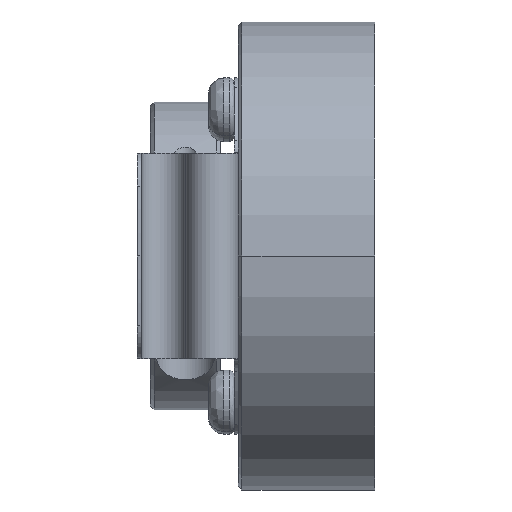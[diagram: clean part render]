
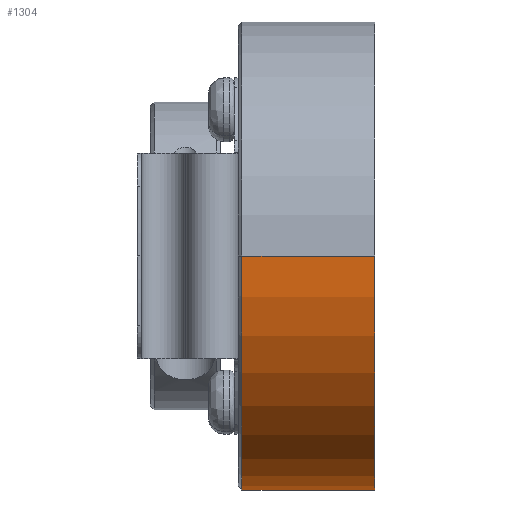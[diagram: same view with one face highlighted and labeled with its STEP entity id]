
A CAD part, front view. The second image highlights one B-rep face of the part: STEP entity #1304.
In plain terms, the highlighted cylindrical face has radius 18.25 mm (diameter 36.5 mm), a partial arc.
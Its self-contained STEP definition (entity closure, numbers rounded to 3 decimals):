
#867 = DIRECTION ( 'NONE',  ( 0., 1., 0. ) ) ;
#1304 = ADVANCED_FACE ( 'NONE', ( #10850 ), #15355, .T. ) ;
#2511 = CARTESIAN_POINT ( 'NONE',  ( -1.3, -18.25, 0. ) ) ;
#2563 = ORIENTED_EDGE ( 'NONE', *, *, #18942, .T. ) ;
#3885 = CARTESIAN_POINT ( 'NONE',  ( -11.65, -18.25, 0. ) ) ;
#4248 = ORIENTED_EDGE ( 'NONE', *, *, #6705, .F. ) ;
#4280 = AXIS2_PLACEMENT_3D ( 'NONE', #12043, #18749, #867 ) ;
#4600 = EDGE_CURVE ( 'NONE', #19644, #19797, #17626, .T. ) ;
#6275 = CARTESIAN_POINT ( 'NONE',  ( -1000., 0., 0. ) ) ;
#6684 = VERTEX_POINT ( 'NONE', #17681 ) ;
#6705 = EDGE_CURVE ( 'NONE', #6684, #19797, #20355, .T. ) ;
#7874 = CARTESIAN_POINT ( 'NONE',  ( -11.65, 18.25, 0. ) ) ;
#8023 = AXIS2_PLACEMENT_3D ( 'NONE', #18841, #9197, #17314 ) ;
#9170 = EDGE_LOOP ( 'NONE', ( #2563, #20824, #18116, #4248 ) ) ;
#9197 = DIRECTION ( 'NONE',  ( -1., 0., 0. ) ) ;
#9950 = VECTOR ( 'NONE', #20869, 1000. ) ;
#10850 = FACE_OUTER_BOUND ( 'NONE', #9170, .T. ) ;
#11793 = VERTEX_POINT ( 'NONE', #2511 ) ;
#12043 = CARTESIAN_POINT ( 'NONE',  ( -11.65, 0., 0. ) ) ;
#13884 = EDGE_CURVE ( 'NONE', #11793, #19644, #14185, .T. ) ;
#14185 = LINE ( 'NONE', #19569, #9950 ) ;
#14232 = CARTESIAN_POINT ( 'NONE',  ( -1000., 18.25, 0. ) ) ;
#14767 = AXIS2_PLACEMENT_3D ( 'NONE', #6275, #16097, #20801 ) ;
#15355 = CYLINDRICAL_SURFACE ( 'NONE', #14767, 18.25 ) ;
#16097 = DIRECTION ( 'NONE',  ( -1., 0., 0. ) ) ;
#17314 = DIRECTION ( 'NONE',  ( 0., 1., 0. ) ) ;
#17626 = CIRCLE ( 'NONE', #4280, 18.25 ) ;
#17681 = CARTESIAN_POINT ( 'NONE',  ( -1.3, 18.25, 0. ) ) ;
#18116 = ORIENTED_EDGE ( 'NONE', *, *, #4600, .T. ) ;
#18351 = VECTOR ( 'NONE', #20697, 1000. ) ;
#18749 = DIRECTION ( 'NONE',  ( 1., 0., 0. ) ) ;
#18841 = CARTESIAN_POINT ( 'NONE',  ( -1.3, 0., 0. ) ) ;
#18942 = EDGE_CURVE ( 'NONE', #6684, #11793, #19967, .T. ) ;
#19569 = CARTESIAN_POINT ( 'NONE',  ( -1000., -18.25, 0. ) ) ;
#19644 = VERTEX_POINT ( 'NONE', #3885 ) ;
#19797 = VERTEX_POINT ( 'NONE', #7874 ) ;
#19967 = CIRCLE ( 'NONE', #8023, 18.25 ) ;
#20355 = LINE ( 'NONE', #14232, #18351 ) ;
#20697 = DIRECTION ( 'NONE',  ( -1., 0., 0. ) ) ;
#20801 = DIRECTION ( 'NONE',  ( 0., 1., 0. ) ) ;
#20824 = ORIENTED_EDGE ( 'NONE', *, *, #13884, .T. ) ;
#20869 = DIRECTION ( 'NONE',  ( -1., 0., 0. ) ) ;
